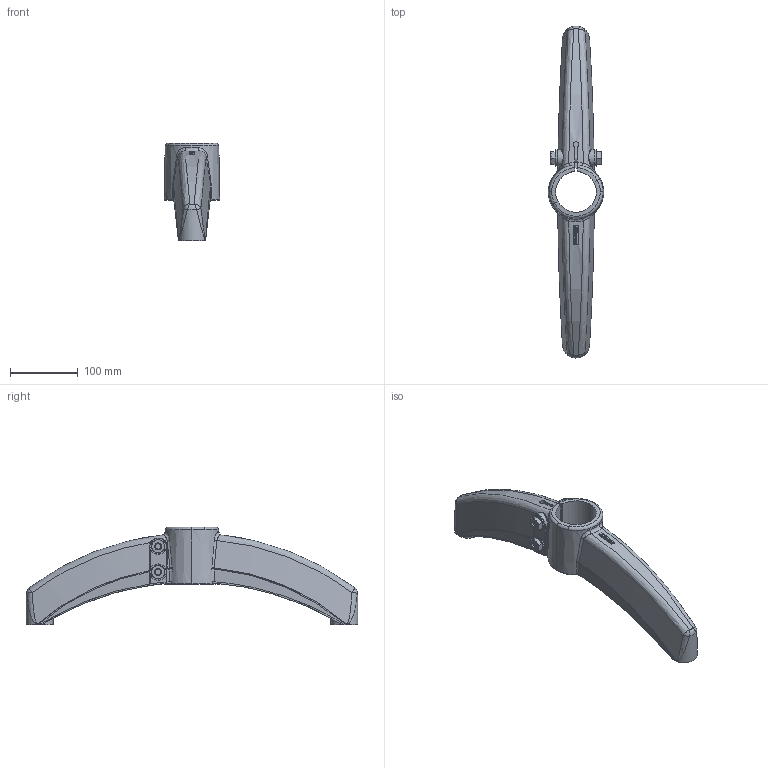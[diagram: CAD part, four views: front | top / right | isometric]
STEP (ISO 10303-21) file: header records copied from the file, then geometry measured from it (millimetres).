
FILE_DESCRIPTION(('CATIA V5 STEP Exchange'),'2;1');
FILE_NAME('\\server01\tecnico\CODICI MOVEX\3D per clienti\Gaia Cardinale\31-10-2013\P40102_01.stp','2013-10-31T15:36:20+00:00',('none'),('none'),'CATIA Version 5 Release 21 SP 1 (IN-10)','CATIA V5 STEP AP203','none');
FILE_SCHEMA(('CONFIG_CONTROL_DESIGN'));
Length unit declared in the file: millimetre
Products named in the file (1): P40102
Assembly tree (10 placements, depth 2):
  P40102
    #58
    #98381  x4
    #98595  x2
    #99184  x2
    #99995
Bounding box: 81.95 x 490 x 144.42 mm (x, y, z)
Volume: 683998.1 mm3; surface area: 306560.8 mm2
Topology: 11 solids, 15 shells, 1932 faces, 5162 edges, 3213 vertices
Faces by surface type: bspline 748, plane 601, cylinder 352, cone 70, extrusion 68, torus 55, sphere 38
Entity records: 99987 total; most frequent: CARTESIAN_POINT 63607, ORIENTED_EDGE 9966, EDGE_CURVE 4980, B_SPLINE_CURVE_WITH_KNOTS 3525, DIRECTION 3309, VERTEX_POINT 3123, EDGE_LOOP 1907, ADVANCED_FACE 1868
